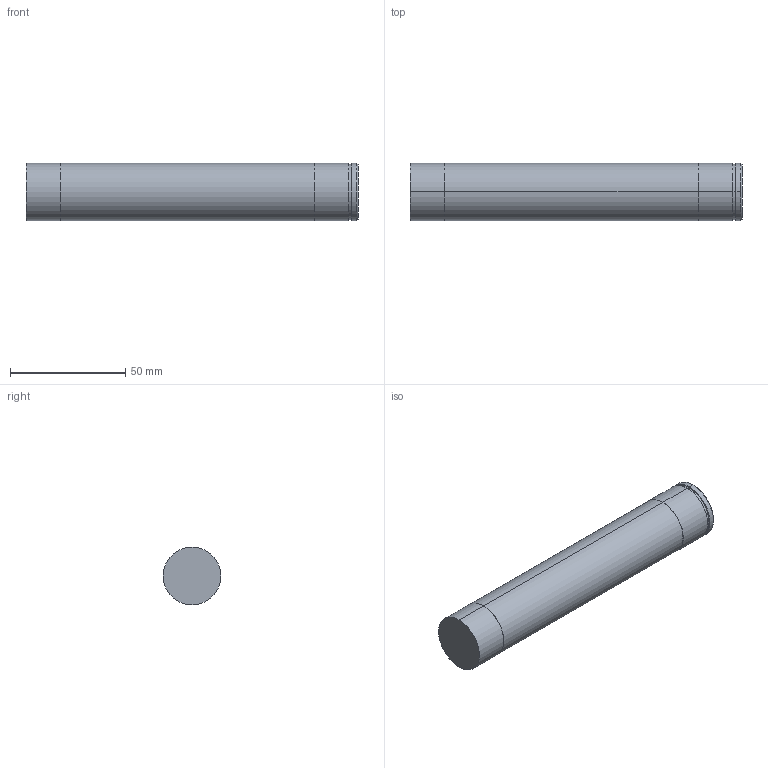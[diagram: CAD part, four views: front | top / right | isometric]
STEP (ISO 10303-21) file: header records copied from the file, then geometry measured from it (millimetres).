
FILE_DESCRIPTION (( 'STEP AP203' ), '1' );
FILE_NAME ('S7-25.STEP', '2002-08-16T10:51:39', ( '.' ), ( '.' ), 'SwSTEP 2.0', 'SolidWorks 2001340', '' );
FILE_SCHEMA (( 'CONFIG_CONTROL_DESIGN' ));
Length unit declared in the file: millimetre
Products named in the file (1): S7-25
Bounding box: 144 x 25 x 25 mm (x, y, z)
Volume: 69758.7 mm3; surface area: 12292.3 mm2
Topology: 1 solids, 1 shells, 18 faces, 34 edges, 22 vertices
Faces by surface type: cylinder 10, plane 6, cone 2
Entity records: 541 total; most frequent: DIRECTION 94, CARTESIAN_POINT 75, ORIENTED_EDGE 68, AXIS2_PLACEMENT_3D 41, EDGE_CURVE 34, CIRCLE 22, VERTEX_POINT 22, EDGE_LOOP 22
